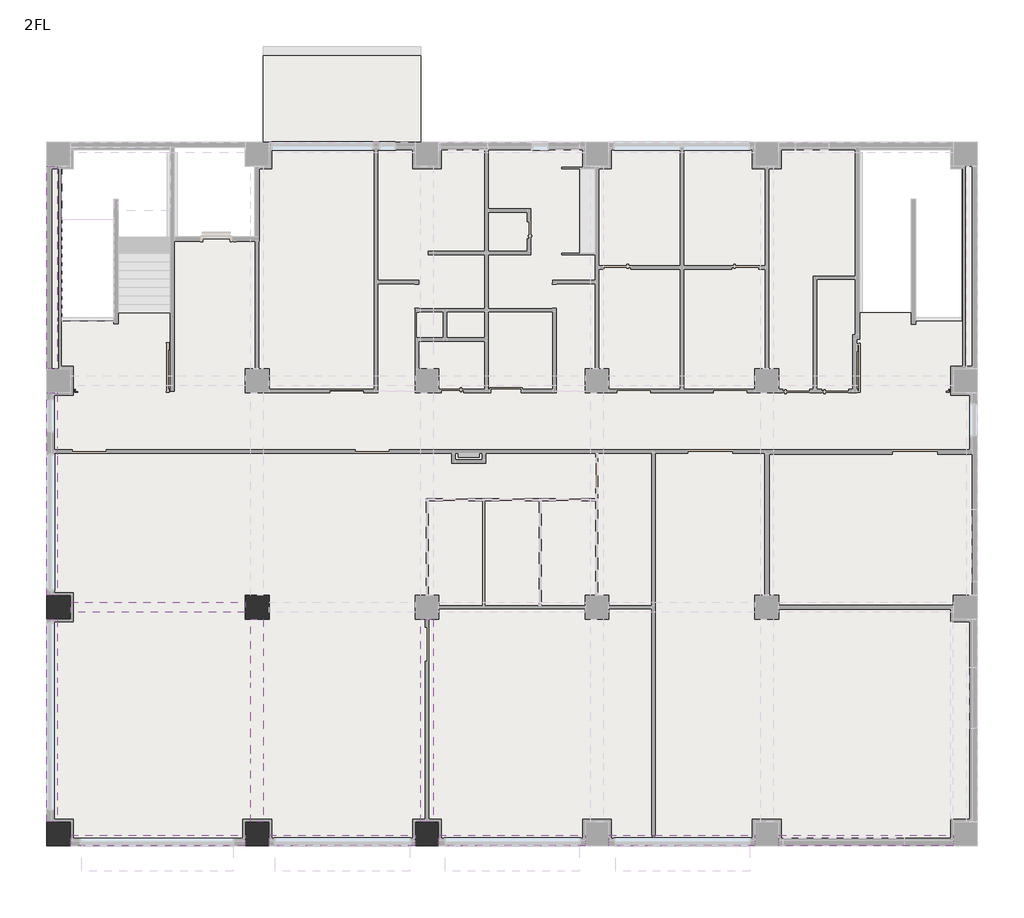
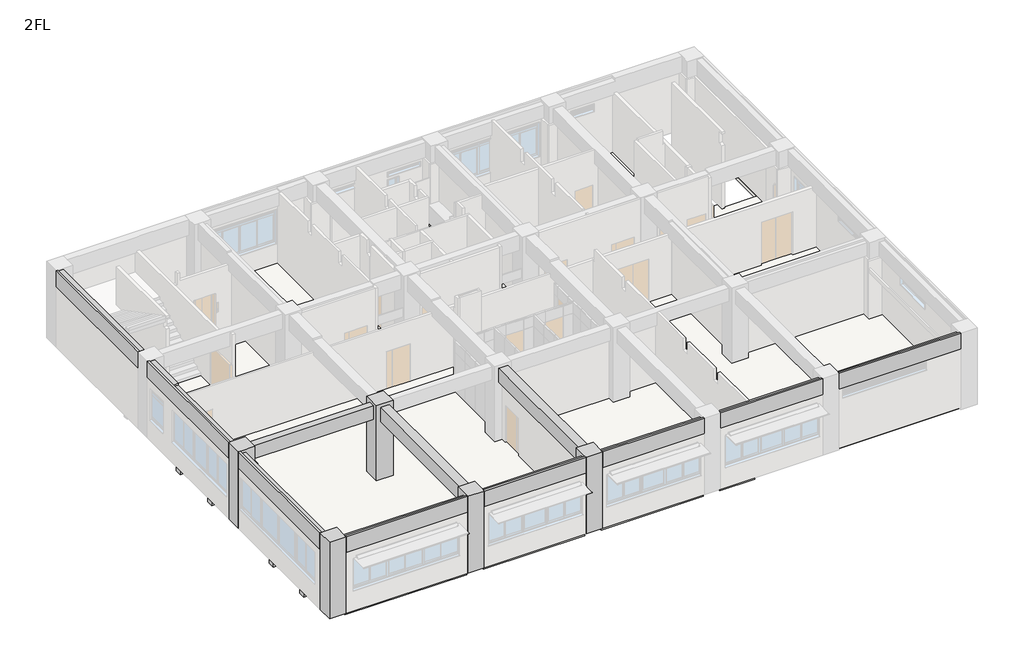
# One storey, part 5 of 7: 17 beams, 5 columns, 4 slabs.
"""IFC4 building model written with IfcOpenShell, lengths in millimetres."""

from ifc_helpers import new_model, si_unit, frame, origin, place, context, project, spatial, polyline, outline, extrude, faceted_brep, element, save

model = new_model("IFC4")

# Units and contexts
model_context = context("Model", 3, world=origin())
ifc_project = project(units=[si_unit("LENGTHUNIT", "METRE", prefix="MILLI")], contexts=[model_context])

# Site, building, storey
site = spatial("IfcSite", under=ifc_project)
building = spatial("IfcBuilding", under=site)
storey = spatial("IfcBuildingStorey", under=building, Name="2FL", Elevation=4100.0)

# Beams
placement = place(None, origin())
element("IfcBeam", 1, ObjectType="営_RC梁 : 2-RG1 350*850", at=placement, inside=storey, context=model_context, shape_type="Brep", body=[
    faceted_brep([(6580.0, -420.0, 8100.0), (6580.0, -420.0, 7250.0), (6580.0, -250.0, 7250.0), (6580.0, -50.0, 7250.0), (6580.0, -50.0, 7950.0), (6580.0, -325.0, 7950.0), (6580.0, -325.0, 8100.0), (420.0, -420.0, 8100.0), (420.0, -420.0, 7250.0), (420.0, -250.0, 7250.0), (420.0, -50.0, 7250.0), (420.0, -50.0, 7950.0), (420.0, -325.0, 8100.0), (420.0, -325.0, 7950.0)], [[[0, 1, 2, 3, 4, 5, 6]], [[1, 0, 7, 8]], [[3, 2, 1, 8, 9, 10]], [[3, 10, 11, 4]], [[7, 0, 6, 12]], [[8, 7, 12, 13, 11, 10, 9]], [[13, 5, 4, 11]], [[5, 13, 12, 6]]]),
])
element("IfcBeam", 2, ObjectType="営_RC梁 : 2-RG1 350*850", at=placement, inside=storey, context=model_context, shape_type="Brep", body=[
    faceted_brep([(12580.0, -420.0, 8100.0), (12580.0, -420.0, 7250.0), (12580.0, -250.0, 7250.0), (12580.0, -50.0, 7250.0), (12580.0, -50.0, 7950.0), (12580.0, -325.0, 7950.0), (12580.0, -325.0, 8100.0), (7420.0, -50.0, 7250.0), (7420.0, -250.0, 7250.0), (7420.0, -420.0, 7250.0), (7420.0, -420.0, 8100.0), (7420.0, -325.0, 8100.0), (7420.0, -325.0, 7950.0), (7420.0, -50.0, 7950.0)], [[[0, 1, 2, 3, 4, 5, 6]], [[7, 8, 9, 10, 11, 12, 13]], [[1, 0, 10, 9]], [[3, 2, 1, 9, 8, 7]], [[3, 7, 13, 4]], [[10, 0, 6, 11]], [[12, 5, 4, 13]], [[5, 12, 11, 6]]]),
])
element("IfcBeam", 3, ObjectType="営_RC梁 : 2-RG1 350*850", at=placement, inside=storey, context=model_context, shape_type="Brep", body=[
    faceted_brep([(18580.0, -420.0, 8100.0), (18580.0, -420.0, 7250.0), (18580.0, -250.0, 7250.0), (18580.0, -50.0, 7250.0), (18580.0, -50.0, 7950.0), (18580.0, -325.0, 7950.0), (18580.0, -325.0, 8100.0), (13420.0, -50.0, 7250.0), (13420.0, -250.0, 7250.0), (13420.0, -420.0, 7250.0), (13420.0, -420.0, 8100.0), (13420.0, -325.0, 8100.0), (13420.0, -325.0, 7950.0), (13420.0, -50.0, 7950.0)], [[[0, 1, 2, 3, 4, 5, 6]], [[7, 8, 9, 10, 11, 12, 13]], [[1, 0, 10, 9]], [[3, 2, 1, 9, 8, 7]], [[3, 7, 13, 4]], [[10, 0, 6, 11]], [[12, 5, 4, 13]], [[5, 12, 11, 6]]]),
])
element("IfcBeam", 4, ObjectType="営_RC梁 : 2-RG1 350*850", at=placement, inside=storey, context=model_context, shape_type="Brep", body=[
    faceted_brep([(24580.0, -420.0, 8100.0), (24580.0, -420.0, 7250.0), (24580.0, -250.0, 7250.0), (24580.0, -50.0, 7250.0), (24580.0, -50.0, 7950.0), (24580.0, -325.0, 7950.0), (24580.0, -325.0, 8100.0), (19420.0, -50.0, 7250.0), (19420.0, -250.0, 7250.0), (19420.0, -420.0, 7250.0), (19420.0, -420.0, 8100.0), (19420.0, -325.0, 8100.0), (19420.0, -325.0, 7950.0), (19420.0, -50.0, 7950.0), (20940.0, -50.0, 7250.0), (21060.0, -50.0, 7250.0), (20940.0, -50.0, 7950.0), (21060.0, -50.0, 7950.0)], [[[0, 1, 2, 3, 4, 5, 6]], [[7, 8, 9, 10, 11, 12, 13]], [[1, 0, 10, 9]], [[3, 2, 1, 9, 8, 7, 14, 15]], [[3, 15, 14, 7, 13, 16, 17, 4]], [[10, 0, 6, 11]], [[12, 5, 4, 17, 16, 13]], [[5, 12, 11, 6]]]),
])
element("IfcBeam", 5, ObjectType="営_RC梁 : 2-RG1 350*850", at=placement, inside=storey, context=model_context, shape_type="Brep", body=[
    faceted_brep([(31580.0, -420.0, 8100.0), (31580.0, -420.0, 7250.0), (31580.0, -250.0, 7250.0), (31580.0, -50.0, 7250.0), (31580.0, -50.0, 7950.0), (31580.0, -325.0, 7950.0), (31580.0, -325.0, 8100.0), (25420.0, -50.0, 7250.0), (25420.0, -250.0, 7250.0), (25420.0, -420.0, 7250.0), (25420.0, -420.0, 8100.0), (25420.0, -325.0, 8100.0), (25420.0, -325.0, 7950.0), (25420.0, -50.0, 7950.0)], [[[0, 1, 2, 3, 4, 5, 6]], [[7, 8, 9, 10, 11, 12, 13]], [[1, 0, 10, 9]], [[3, 2, 1, 9, 8, 7]], [[3, 7, 13, 4]], [[10, 0, 6, 11]], [[12, 5, 4, 13]], [[5, 12, 11, 6]]]),
])
element("IfcBeam", 6, ObjectType="営_RC梁 : 2-RG11 350*900", at=placement, inside=storey, context=model_context, shape_type="Brep", body=[
    faceted_brep([(-50.0, 420.0, 7200.0), (-50.0, 7580.0, 7200.0), (-50.0, 7580.0, 7950.0), (-50.0, 5505.0, 7950.0), (-50.0, 5155.0, 7950.0), (-50.0, 2835.0, 7950.0), (-50.0, 2485.0, 7950.0), (-50.0, 420.0, 7950.0), (-250.0, 420.0, 7200.0), (-420.0, 420.0, 7200.0), (-420.0, 7580.0, 7200.0), (-250.0, 7580.0, 7200.0), (-420.0, 420.0, 8100.0), (-420.0, 7580.0, 8100.0), (-335.0, 420.0, 8100.0), (-335.0, 7580.0, 8100.0), (-335.0, 420.0, 7950.0), (-335.0, 7580.0, 7950.0)], [[[0, 1, 2, 3, 4, 5, 6, 7]], [[0, 8, 9, 10, 11, 1]], [[9, 12, 13, 10]], [[13, 12, 14, 15]], [[9, 8, 0, 7, 16, 14, 12]], [[1, 11, 10, 13, 15, 17, 2]], [[17, 16, 7, 6, 5, 4, 3, 2]], [[16, 17, 15, 14]]]),
])
element("IfcBeam", 7, ObjectType="営_RC梁 : 2-RG11 350*900", at=placement, inside=storey, context=model_context, shape_type="Brep", body=[
    faceted_brep([(-50.0, 15580.0, 7200.0), (-250.0, 15580.0, 7200.0), (-420.0, 15580.0, 7200.0), (-420.0, 15580.0, 8100.0), (-325.0, 15580.0, 8100.0), (-325.0, 15580.0, 8040.0), (-250.0, 15580.0, 8040.0), (-50.0, 15580.0, 8040.0), (-420.0, 8420.0, 8100.0), (-420.0, 8420.0, 7200.0), (-250.0, 8420.0, 7200.0), (-50.0, 8420.0, 7200.0), (-50.0, 8420.0, 7950.0), (-335.0, 8420.0, 7950.0), (-335.0, 8420.0, 8100.0), (-50.0, 13440.0, 7200.0), (-50.0, 13560.0, 7200.0), (-50.0, 13675.0, 8040.0), (-50.0, 13500.0, 8040.0), (-50.0, 13500.0, 7950.0), (-50.0, 13325.0, 7950.0), (-50.0, 10925.0, 7950.0), (-50.0, 10575.0, 7950.0), (-335.0, 13500.0, 8100.0), (-325.0, 13500.0, 8100.0), (-335.0, 13500.0, 7950.0), (-250.0, 13500.0, 8040.0), (-325.0, 13500.0, 8040.0)], [[[0, 1, 2, 3, 4, 5, 6, 7]], [[8, 9, 10, 11, 12, 13, 14]], [[11, 15, 16, 0, 7, 17, 18, 19, 20, 21, 22, 12]], [[2, 1, 0, 16, 15, 11, 10, 9]], [[3, 2, 9, 8]], [[3, 8, 14, 23, 24, 4]], [[19, 25, 13, 12, 22, 21, 20]], [[25, 23, 14, 13]], [[23, 25, 19, 18, 26, 27, 24]], [[5, 27, 26, 18, 17, 7, 6]], [[27, 5, 4, 24]]]),
])
element("IfcBeam", 8, ObjectType="営_RC梁 : 2-RG11 350*900", at=placement, inside=storey, context=model_context, shape_type="Brep", body=[
    faceted_brep([(-50.0, 23580.0, 7200.0), (-250.0, 23580.0, 7200.0), (-420.0, 23580.0, 7200.0), (-420.0, 23580.0, 8100.0), (-325.0, 23580.0, 8100.0), (-325.0, 23580.0, 8040.0), (-250.0, 23580.0, 8040.0), (-50.0, 23580.0, 8040.0), (-420.0, 16420.0, 8100.0), (-420.0, 16420.0, 7200.0), (-250.0, 16420.0, 7200.0), (-50.0, 16420.0, 7200.0), (-50.0, 16420.0, 8040.0), (-250.0, 16420.0, 8040.0), (-325.0, 16420.0, 8040.0), (-325.0, 16420.0, 8100.0), (-50.0, 18225.0, 8040.0), (-50.0, 17975.0, 8040.0)], [[[0, 1, 2, 3, 4, 5, 6, 7]], [[8, 9, 10, 11, 12, 13, 14, 15]], [[11, 0, 7, 16, 17, 12]], [[2, 1, 0, 11, 10, 9]], [[3, 2, 9, 8]], [[3, 8, 15, 4]], [[5, 14, 13, 12, 17, 16, 7, 6]], [[14, 5, 4, 15]]]),
])
element("IfcBeam", 9, ObjectType="営_RC梁 : 2-RG2 350*850", at=placement, inside=storey, context=model_context, shape_type="SweptSolid", body=[
    extrude(outline(polyline([(6580.0, 8175.0), (6580.0, 7825.0), (420.0, 7825.0), (420.0, 8175.0), (6580.0, 8175.0)])), frame((0.0, 0.0, 7250.0), z_axis=(0.0, 0.0, 1.0), x_axis=(1.0, 0.0, 0.0)), (0.0, 0.0, 1.0), 700.0),
])
element("IfcBeam", 10, ObjectType="営_RC梁 : 2-4G12 450*900", at=placement, inside=storey, context=model_context, shape_type="Brep", body=[
    faceted_brep([(7225.0, 420.0, 7200.0), (7225.0, 7580.0, 7200.0), (7225.0, 7580.0, 7950.0), (7225.0, 5505.0, 7950.0), (7225.0, 5155.0, 7950.0), (7225.0, 2835.0, 7950.0), (7225.0, 2485.0, 7950.0), (7225.0, 420.0, 7950.0), (6775.0, 420.0, 7200.0), (6775.0, 7580.0, 7200.0), (6775.0, 420.0, 7950.0), (6775.0, 2485.0, 7950.0), (6775.0, 2835.0, 7950.0), (6775.0, 5155.0, 7950.0), (6775.0, 5505.0, 7950.0), (6775.0, 7580.0, 7950.0)], [[[0, 1, 2, 3, 4, 5, 6, 7]], [[0, 8, 9, 1]], [[9, 8, 10, 11, 12, 13, 14, 15]], [[8, 0, 7, 10]], [[1, 9, 15, 2]], [[7, 6, 5, 4, 3, 2, 15, 14, 13, 12, 11, 10]]]),
])
element("IfcBeam", 11, ObjectType="営_RC梁 : 2-4G12 450*900", at=placement, inside=storey, context=model_context, shape_type="Brep", body=[
    faceted_brep([(13225.0, 420.0, 7200.0), (13225.0, 7580.0, 7200.0), (13225.0, 7580.0, 7950.0), (13225.0, 5505.0, 7950.0), (13225.0, 5155.0, 7950.0), (13225.0, 2835.0, 7950.0), (13225.0, 2485.0, 7950.0), (13225.0, 420.0, 7950.0), (13060.0, 420.0, 7200.0), (12940.0, 420.0, 7200.0), (12775.0, 420.0, 7200.0), (12775.0, 7580.0, 7200.0), (12940.0, 7580.0, 7200.0), (13060.0, 7580.0, 7200.0), (12775.0, 420.0, 7950.0), (12775.0, 2485.0, 7950.0), (12775.0, 2835.0, 7950.0), (12775.0, 5155.0, 7950.0), (12775.0, 5505.0, 7950.0), (12775.0, 7580.0, 7950.0)], [[[0, 1, 2, 3, 4, 5, 6, 7]], [[0, 8, 9, 10, 11, 12, 13, 1]], [[11, 10, 14, 15, 16, 17, 18, 19]], [[10, 9, 8, 0, 7, 14]], [[1, 13, 12, 11, 19, 2]], [[7, 6, 5, 4, 3, 2, 19, 18, 17, 16, 15, 14]]]),
])
element("IfcBeam", 12, ObjectType="営_RC梁 : B1 350*750", at=placement, inside=storey, context=model_context, shape_type="SweptSolid", body=[
    extrude(outline(polyline([(7225.0, 5155.0), (7225.0, 5505.0), (12775.0, 5505.0), (12775.0, 5155.0), (7225.0, 5155.0)])), frame((0.0, 0.0, 3250.0), z_axis=(0.0, 0.0, 1.0), x_axis=(1.0, 0.0, 0.0)), (0.0, 0.0, 1.0), 600.0),
])
element("IfcBeam", 13, ObjectType="営_RC梁 : B1 350*750", at=placement, inside=storey, context=model_context, shape_type="SweptSolid", body=[
    extrude(outline(polyline([(7225.0, 2485.0), (7225.0, 2835.0), (12775.0, 2835.0), (12775.0, 2485.0), (7225.0, 2485.0)])), frame((0.0, 0.0, 3250.0), z_axis=(0.0, 0.0, 1.0), x_axis=(1.0, 0.0, 0.0)), (0.0, 0.0, 1.0), 600.0),
])
element("IfcBeam", 14, ObjectType="営_RC梁 : B1 350*750", at=placement, inside=storey, context=model_context, shape_type="SweptSolid", body=[
    extrude(outline(polyline([(-50.0, 5155.0), (-50.0, 5505.0), (6775.0, 5505.0), (6775.0, 5155.0), (-50.0, 5155.0)])), frame((0.0, 0.0, 3250.0), z_axis=(0.0, 0.0, 1.0), x_axis=(1.0, 0.0, 0.0)), (0.0, 0.0, 1.0), 600.0),
])
element("IfcBeam", 15, ObjectType="営_RC梁 : B1 350*750", at=placement, inside=storey, context=model_context, shape_type="SweptSolid", body=[
    extrude(outline(polyline([(-50.0, 2485.0), (-50.0, 2835.0), (6775.0, 2835.0), (6775.0, 2485.0), (-50.0, 2485.0)])), frame((0.0, 0.0, 3250.0), z_axis=(0.0, 0.0, 1.0), x_axis=(1.0, 0.0, 0.0)), (0.0, 0.0, 1.0), 600.0),
])
element("IfcBeam", 16, ObjectType="営_RC梁 : B1 350*750", at=placement, inside=storey, context=model_context, shape_type="SweptSolid", body=[
    extrude(outline(polyline([(-50.0, 10575.0), (-50.0, 10925.0), (6775.0, 10925.0), (6775.0, 10575.0), (-50.0, 10575.0)])), frame((0.0, 0.0, 3250.0), z_axis=(0.0, 0.0, 1.0), x_axis=(1.0, 0.0, 0.0)), (0.0, 0.0, 1.0), 600.0),
])
element("IfcBeam", 17, ObjectType="営_RC梁 : B1 350*750", at=placement, inside=storey, context=model_context, shape_type="SweptSolid", body=[
    extrude(outline(polyline([(13675.0, 3250.0), (13325.0, 3250.0), (13325.0, 3850.0), (13500.0, 3850.0), (13500.0, 3940.0), (13675.0, 3940.0), (13675.0, 3250.0)])), frame((-50.0, 0.0, 0.0), z_axis=(1.0, 0.0, 0.0), x_axis=(0.0, 1.0, 0.0)), (0.0, 0.0, 1.0), 6825.0),
])

# Columns
element("IfcColumn", 18, ObjectType="営_RC柱_角 : 800*800", at=placement, inside=storey, context=model_context, shape_type="Brep", body=[
    faceted_brep([(7420.0, 420.0, 4000.0), (7420.0, -250.0, 4000.0), (7420.0, -420.0, 4000.0), (6580.0, -420.0, 4000.0), (6580.0, -250.0, 4000.0), (6580.0, 420.0, 4000.0), (7420.0, 420.0, 8100.0), (7420.0, -325.0, 8100.0), (7420.0, -420.0, 8100.0), (7420.0, -420.0, 7250.0), (7420.0, 420.0, 4080.0), (7420.0, 420.0, 4090.0), (7420.0, 420.0, 7950.0), (6580.0, -420.0, 8100.0), (6580.0, -420.0, 7250.0), (6580.0, -325.0, 8100.0), (6580.0, 420.0, 8100.0), (6580.0, 420.0, 7950.0), (6580.0, 420.0, 4090.0), (6580.0, 420.0, 4080.0)], [[[0, 1, 2, 3, 4, 5]], [[6, 7, 8, 9, 2, 1, 0, 10, 11, 12]], [[8, 13, 14, 3, 2, 9]], [[13, 15, 16, 17, 18, 19, 5, 4, 3, 14]], [[16, 6, 12, 11, 10, 0, 5, 19, 18, 17]], [[6, 16, 15, 13, 8, 7]]]),
])
element("IfcColumn", 19, ObjectType="営_RC柱_角 : 800*800", at=placement, inside=storey, context=model_context, shape_type="Brep", body=[
    faceted_brep([(13420.0, 420.0, 4000.0), (13420.0, -250.0, 4000.0), (13420.0, -420.0, 4000.0), (12580.0, -420.0, 4000.0), (12580.0, -250.0, 4000.0), (12580.0, 420.0, 4000.0), (13420.0, 420.0, 8100.0), (13420.0, -325.0, 8100.0), (13420.0, -420.0, 8100.0), (13420.0, -420.0, 7250.0), (13420.0, 420.0, 4080.0), (13420.0, 420.0, 4090.0), (13420.0, 420.0, 7950.0), (12580.0, -420.0, 8100.0), (12580.0, -420.0, 7250.0), (12580.0, -325.0, 8100.0), (12580.0, 420.0, 8100.0), (12580.0, 420.0, 7950.0), (12580.0, 420.0, 4090.0), (12580.0, 420.0, 4080.0)], [[[0, 1, 2, 3, 4, 5]], [[6, 7, 8, 9, 2, 1, 0, 10, 11, 12]], [[8, 13, 14, 3, 2, 9]], [[13, 15, 16, 17, 18, 19, 5, 4, 3, 14]], [[16, 6, 12, 11, 10, 0, 5, 19, 18, 17]], [[6, 16, 15, 13, 8, 7]]]),
])
element("IfcColumn", 20, ObjectType="営_RC柱_角 : 800*800", at=placement, inside=storey, context=model_context, shape_type="Brep", body=[
    faceted_brep([(420.0, 420.0, 4000.0), (420.0, -250.0, 4000.0), (420.0, -420.0, 4000.0), (-420.0, -420.0, 4000.0), (-420.0, 420.0, 4000.0), (-250.0, 420.0, 4000.0), (420.0, 420.0, 8100.0), (420.0, -325.0, 8100.0), (420.0, -420.0, 8100.0), (420.0, -420.0, 7250.0), (420.0, 420.0, 4080.0), (420.0, 420.0, 4090.0), (420.0, 420.0, 7950.0), (-420.0, -420.0, 8100.0), (-420.0, 420.0, 8100.0), (-420.0, 420.0, 7200.0), (-335.0, 420.0, 8100.0)], [[[0, 1, 2, 3, 4, 5]], [[6, 7, 8, 9, 2, 1, 0, 10, 11, 12]], [[8, 13, 3, 2, 9]], [[13, 14, 15, 4, 3]], [[14, 16, 6, 12, 11, 10, 0, 5, 4, 15]], [[6, 16, 14, 13, 8, 7]]]),
])
element("IfcColumn", 21, ObjectType="営_RC柱_角 : 800*800", at=placement, inside=storey, context=model_context, shape_type="Brep", body=[
    faceted_brep([(7420.0, 8420.0, 4000.0), (7420.0, 7580.0, 4000.0), (6580.0, 7580.0, 4000.0), (6580.0, 8420.0, 4000.0), (7420.0, 8420.0, 8100.0), (7420.0, 7580.0, 8100.0), (7420.0, 7580.0, 7950.0), (7420.0, 7580.0, 4090.0), (7420.0, 7580.0, 4080.0), (7420.0, 8420.0, 4080.0), (7420.0, 8420.0, 4090.0), (7420.0, 8420.0, 7950.0), (6580.0, 7580.0, 8100.0), (6580.0, 7580.0, 7950.0), (6580.0, 7580.0, 4090.0), (6580.0, 7580.0, 4080.0), (6580.0, 8420.0, 8100.0), (6580.0, 8420.0, 7950.0), (6580.0, 8420.0, 4090.0), (6580.0, 8420.0, 4080.0)], [[[0, 1, 2, 3]], [[4, 5, 6, 7, 8, 1, 0, 9, 10, 11]], [[5, 12, 13, 14, 15, 2, 1, 8, 7, 6]], [[12, 16, 17, 18, 19, 3, 2, 15, 14, 13]], [[16, 4, 11, 10, 9, 0, 3, 19, 18, 17]], [[4, 16, 12, 5]]]),
])
element("IfcColumn", 22, ObjectType="営_RC柱_角 : 800*800", at=placement, inside=storey, context=model_context, shape_type="Brep", body=[
    faceted_brep([(420.0, 8420.0, 4000.0), (420.0, 7580.0, 4000.0), (-250.0, 7580.0, 4000.0), (-420.0, 7580.0, 4000.0), (-420.0, 8420.0, 4000.0), (-250.0, 8420.0, 4000.0), (420.0, 8420.0, 8100.0), (420.0, 7580.0, 8100.0), (420.0, 7580.0, 7950.0), (420.0, 7580.0, 4090.0), (420.0, 7580.0, 4080.0), (420.0, 8420.0, 4080.0), (420.0, 8420.0, 4090.0), (420.0, 8420.0, 7950.0), (-335.0, 7580.0, 8100.0), (-420.0, 7580.0, 8100.0), (-420.0, 7580.0, 7200.0), (-420.0, 8420.0, 8100.0), (-420.0, 8420.0, 7200.0), (-335.0, 8420.0, 8100.0)], [[[0, 1, 2, 3, 4, 5]], [[6, 7, 8, 9, 10, 1, 0, 11, 12, 13]], [[7, 14, 15, 16, 3, 2, 1, 10, 9, 8]], [[15, 17, 18, 4, 3, 16]], [[17, 19, 6, 13, 12, 11, 0, 5, 4, 18]], [[6, 19, 17, 15, 14, 7]]]),
])

# Slabs
element("IfcSlab", 23, ObjectType="(内床)仕上げ", at=placement, inside=storey, context=model_context, shape_type="SweptSolid", body=[
    extrude(outline(polyline([(-250.0, 13500.0), (20940.0, 13500.0), (20940.0, -250.0), (19420.0, -250.0), (19420.0, 420.0), (18580.0, 420.0), (18580.0, -250.0), (13420.0, -250.0), (13420.0, 420.0), (12580.0, 420.0), (12580.0, -250.0), (7420.0, -250.0), (7420.0, 420.0), (6580.0, 420.0), (6580.0, -250.0), (420.0, -250.0), (420.0, 420.0), (-250.0, 420.0), (-250.0, 7580.0), (420.0, 7580.0), (420.0, 8420.0), (-250.0, 8420.0), (-250.0, 13500.0)]), holes=[polyline([(7420.0, 7580.0), (7420.0, 8420.0), (6580.0, 8420.0), (6580.0, 7580.0), (7420.0, 7580.0)]), polyline([(13420.0, 7580.0), (13420.0, 8420.0), (12580.0, 8420.0), (12580.0, 7580.0), (13420.0, 7580.0)]), polyline([(19420.0, 7580.0), (19420.0, 8420.0), (18580.0, 8420.0), (18580.0, 7580.0), (19420.0, 7580.0)])]), frame((0.0, 0.0, 4080.0), z_axis=(0.0, 0.0, 1.0), x_axis=(1.0, 0.0, 0.0)), (0.0, 0.0, 1.0), 10.0),
    extrude(outline(polyline([(11200.0, 24250.0), (11200.0, 15640.0), (7420.0, 15640.0), (7420.0, 16420.0), (7000.0, 16420.0), (7000.0, 23580.0), (7420.0, 23580.0), (7420.0, 24250.0), (11200.0, 24250.0)])), frame((0.0, 0.0, 4080.0), z_axis=(0.0, 0.0, 1.0), x_axis=(1.0, 0.0, 0.0)), (0.0, 0.0, 1.0), 10.0),
])
element("IfcSlab", 24, ObjectType="(RC)150", at=placement, inside=storey, context=model_context, shape_type="Brep", body=[
    faceted_brep([(11200.0, 15640.0, 3850.0), (7420.0, 15640.0, 3850.0), (7420.0, 15825.0, 3850.0), (7420.0, 16175.0, 3850.0), (7420.0, 16420.0, 3850.0), (7225.0, 16420.0, 3850.0), (7000.0, 16420.0, 3850.0), (7000.0, 23580.0, 3850.0), (7225.0, 23580.0, 3850.0), (7420.0, 23580.0, 3850.0), (7420.0, 24050.0, 3850.0), (7420.0, 24250.0, 3850.0), (11200.0, 24250.0, 3850.0), (11200.0, 24050.0, 3850.0), (11200.0, 21515.0, 3850.0), (11200.0, 21165.0, 3850.0), (11200.0, 18845.0, 3850.0), (11200.0, 18495.0, 3850.0), (11200.0, 16175.0, 3850.0), (11200.0, 15825.0, 3850.0), (7420.0, 15640.0, 4000.0), (11200.0, 15640.0, 4000.0), (11200.0, 24250.0, 4000.0), (7420.0, 24250.0, 4000.0), (7420.0, 23580.0, 4000.0), (7000.0, 23580.0, 4000.0), (7000.0, 21000.0, 4000.0), (7000.0, 16420.0, 4000.0), (7420.0, 16420.0, 4000.0), (11200.0, 15640.0, 3940.0), (11200.0, 24250.0, 3940.0), (7420.0, 15640.0, 3940.0), (7000.0, 16420.0, 3940.0)], [[[0, 1, 2, 3, 4, 5, 6, 7, 8, 9, 10, 11, 12, 13, 14, 15, 16, 17, 18, 19]], [[20, 21, 22, 23, 24, 25, 26, 27, 28]], [[21, 29, 0, 19, 18, 17, 16, 15, 14, 13, 12, 30, 22]], [[0, 29, 21, 20, 31, 1]], [[6, 32, 27, 26, 25, 7]], [[28, 4, 3, 2, 1, 31, 20]], [[4, 28, 27, 32, 6, 5]], [[9, 24, 23, 11, 10]], [[24, 9, 8, 7, 25]], [[12, 11, 23, 22, 30]]]),
    faceted_brep([(21200.0, 13500.0, 3850.0), (21200.0, 13325.0, 3850.0), (21200.0, 10925.0, 3850.0), (21200.0, 10575.0, 3850.0), (21200.0, 8175.0, 3850.0), (21200.0, 7825.0, 3850.0), (21200.0, 5505.0, 3850.0), (21200.0, 5155.0, 3850.0), (21200.0, 2835.0, 3850.0), (21200.0, 2485.0, 3850.0), (21200.0, -50.0, 3850.0), (21200.0, -325.0, 3850.0), (19420.0, -325.0, 3850.0), (19420.0, -50.0, 3850.0), (19420.0, 420.0, 3850.0), (19225.0, 420.0, 3850.0), (18775.0, 420.0, 3850.0), (18580.0, 420.0, 3850.0), (18580.0, -50.0, 3850.0), (18580.0, -325.0, 3850.0), (13420.0, -325.0, 3850.0), (13420.0, -50.0, 3850.0), (13420.0, 420.0, 3850.0), (13225.0, 420.0, 3850.0), (12775.0, 420.0, 3850.0), (12580.0, 420.0, 3850.0), (12580.0, -50.0, 3850.0), (12580.0, -325.0, 3850.0), (7420.0, -325.0, 3850.0), (7420.0, -50.0, 3850.0), (7420.0, 420.0, 3850.0), (7225.0, 420.0, 3850.0), (6775.0, 420.0, 3850.0), (6580.0, 420.0, 3850.0), (6580.0, -50.0, 3850.0), (6580.0, -325.0, 3850.0), (420.0, -325.0, 3850.0), (420.0, -50.0, 3850.0), (420.0, 420.0, 3850.0), (-50.0, 420.0, 3850.0), (-250.0, 420.0, 3850.0), (-250.0, 7580.0, 3850.0), (-50.0, 7580.0, 3850.0), (420.0, 7580.0, 3850.0), (420.0, 7825.0, 3850.0), (420.0, 8175.0, 3850.0), (420.0, 8420.0, 3850.0), (-50.0, 8420.0, 3850.0), (-250.0, 8420.0, 3850.0), (-250.0, 13500.0, 3850.0), (-50.0, 13500.0, 3850.0), (6775.0, 13500.0, 3850.0), (7225.0, 13500.0, 3850.0), (12775.0, 13500.0, 3850.0), (13225.0, 13500.0, 3850.0), (18775.0, 13500.0, 3850.0), (19225.0, 13500.0, 3850.0), (7420.0, 7580.0, 3850.0), (7420.0, 7825.0, 3850.0), (7420.0, 8175.0, 3850.0), (7420.0, 8420.0, 3850.0), (7225.0, 8420.0, 3850.0), (6775.0, 8420.0, 3850.0), (6580.0, 8420.0, 3850.0), (6580.0, 8175.0, 3850.0), (6580.0, 7825.0, 3850.0), (6580.0, 7580.0, 3850.0), (6775.0, 7580.0, 3850.0), (7225.0, 7580.0, 3850.0), (13420.0, 7580.0, 3850.0), (13420.0, 7825.0, 3850.0), (13420.0, 8175.0, 3850.0), (13420.0, 8420.0, 3850.0), (13225.0, 8420.0, 3850.0), (12775.0, 8420.0, 3850.0), (12580.0, 8420.0, 3850.0), (12580.0, 8175.0, 3850.0), (12580.0, 7825.0, 3850.0), (12580.0, 7580.0, 3850.0), (12775.0, 7580.0, 3850.0), (13225.0, 7580.0, 3850.0), (19420.0, 7580.0, 3850.0), (19420.0, 7825.0, 3850.0), (19420.0, 8175.0, 3850.0), (19420.0, 8420.0, 3850.0), (19225.0, 8420.0, 3850.0), (18775.0, 8420.0, 3850.0), (18580.0, 8420.0, 3850.0), (18580.0, 8175.0, 3850.0), (18580.0, 7825.0, 3850.0), (18580.0, 7580.0, 3850.0), (18775.0, 7580.0, 3850.0), (19225.0, 7580.0, 3850.0), (21200.0, -325.0, 4000.0), (21200.0, -250.0, 4000.0), (21200.0, 13500.0, 4000.0), (20950.0, 13500.0, 4000.0), (-250.0, 13500.0, 4000.0), (-250.0, 8420.0, 4000.0), (420.0, 8420.0, 4000.0), (420.0, 7580.0, 4000.0), (-250.0, 7580.0, 4000.0), (-250.0, 420.0, 4000.0), (420.0, 420.0, 4000.0), (420.0, -325.0, 4000.0), (6580.0, -325.0, 4000.0), (6580.0, 420.0, 4000.0), (7420.0, 420.0, 4000.0), (7420.0, -325.0, 4000.0), (12580.0, -325.0, 4000.0), (12580.0, 420.0, 4000.0), (13420.0, 420.0, 4000.0), (13420.0, -325.0, 4000.0), (18580.0, -325.0, 4000.0), (18580.0, 420.0, 4000.0), (19420.0, 420.0, 4000.0), (19420.0, -325.0, 4000.0), (7420.0, 8420.0, 4000.0), (7420.0, 7580.0, 4000.0), (6580.0, 7580.0, 4000.0), (6580.0, 8420.0, 4000.0), (13420.0, 8420.0, 4000.0), (13420.0, 7580.0, 4000.0), (12580.0, 7580.0, 4000.0), (12580.0, 8420.0, 4000.0), (19420.0, 8420.0, 4000.0), (19420.0, 7580.0, 4000.0), (18580.0, 7580.0, 4000.0), (18580.0, 8420.0, 4000.0), (21200.0, 13500.0, 3940.0), (-250.0, 13500.0, 3940.0)], [[[0, 1, 2, 3, 4, 5, 6, 7, 8, 9, 10, 11, 12, 13, 14, 15, 16, 17, 18, 19, 20, 21, 22, 23, 24, 25, 26, 27, 28, 29, 30, 31, 32, 33, 34, 35, 36, 37, 38, 39, 40, 41, 42, 43, 44, 45, 46, 47, 48, 49, 50, 51, 52, 53, 54, 55, 56], [57, 58, 59, 60, 61, 62, 63, 64, 65, 66, 67, 68], [69, 70, 71, 72, 73, 74, 75, 76, 77, 78, 79, 80], [81, 82, 83, 84, 85, 86, 87, 88, 89, 90, 91, 92]], [[93, 94, 95, 96, 97, 98, 99, 100, 101, 102, 103, 104, 105, 106, 107, 108, 109, 110, 111, 112, 113, 114, 115, 116], [117, 118, 119, 120], [121, 122, 123, 124], [125, 126, 127, 128]], [[35, 105, 104, 36]], [[108, 28, 27, 109]], [[112, 20, 19, 113]], [[11, 93, 116, 12]], [[95, 129, 0, 56, 55, 54, 53, 52, 51, 50, 49, 130, 97, 96]], [[11, 10, 9, 8, 7, 6, 5, 4, 3, 2, 1, 0, 129, 95, 94, 93]], [[107, 30, 29, 28, 108]], [[33, 106, 105, 35, 34]], [[106, 33, 32, 31, 30, 107]], [[111, 22, 21, 20, 112]], [[25, 110, 109, 27, 26]], [[110, 25, 24, 23, 22, 111]], [[115, 14, 13, 12, 116]], [[17, 114, 113, 19, 18]], [[114, 17, 16, 15, 14, 115]], [[103, 38, 37, 36, 104]], [[38, 103, 102, 40, 39]], [[57, 118, 117, 60, 59, 58]], [[118, 57, 68, 67, 66, 119]], [[119, 66, 65, 64, 63, 120]], [[120, 63, 62, 61, 60, 117]], [[69, 122, 121, 72, 71, 70]], [[122, 69, 80, 79, 78, 123]], [[123, 78, 77, 76, 75, 124]], [[124, 75, 74, 73, 72, 121]], [[81, 126, 125, 84, 83, 82]], [[126, 81, 92, 91, 90, 127]], [[127, 90, 89, 88, 87, 128]], [[128, 87, 86, 85, 84, 125]], [[43, 100, 99, 46, 45, 44]], [[100, 43, 42, 41, 101]], [[46, 99, 98, 48, 47]], [[49, 48, 98, 97, 130]], [[40, 102, 101, 41]]]),
])
element("IfcSlab", 25, ObjectType="(RC)150", at=placement, inside=storey, context=model_context, shape_type="Brep", body=[
    faceted_brep([(4000.0, 21000.0, 3940.0), (4175.0, 21000.0, 3940.0), (4306.3, 21000.0, 3940.0), (6775.0, 21000.0, 3940.0), (7000.0, 21000.0, 3940.0), (7000.0, 16420.0, 3940.0), (6775.0, 16420.0, 3940.0), (6580.0, 16420.0, 3940.0), (6580.0, 16175.0, 3940.0), (6580.0, 15825.0, 3940.0), (6580.0, 15580.0, 3940.0), (6775.0, 15580.0, 3940.0), (7225.0, 15580.0, 3940.0), (7420.0, 15580.0, 3940.0), (7420.0, 15640.0, 3940.0), (11200.0, 15640.0, 3940.0), (11200.0, 15825.0, 3940.0), (11200.0, 16175.0, 3940.0), (11200.0, 18495.0, 3940.0), (11200.0, 18845.0, 3940.0), (11200.0, 21165.0, 3940.0), (11200.0, 21515.0, 3940.0), (11200.0, 24050.0, 3940.0), (11200.0, 24250.0, 3940.0), (12580.0, 24250.0, 3940.0), (12580.0, 24050.0, 3940.0), (12580.0, 23580.0, 3940.0), (12775.0, 23580.0, 3940.0), (13225.0, 23580.0, 3940.0), (13420.0, 23580.0, 3940.0), (13420.0, 24050.0, 3940.0), (13420.0, 24250.0, 3940.0), (18580.0, 24250.0, 3940.0), (18580.0, 24050.0, 3940.0), (18580.0, 23580.0, 3940.0), (18775.0, 23580.0, 3940.0), (19225.0, 23580.0, 3940.0), (19420.0, 23580.0, 3940.0), (19420.0, 24050.0, 3940.0), (19420.0, 24250.0, 3940.0), (24580.0, 24250.0, 3940.0), (24580.0, 24050.0, 3940.0), (24580.0, 23580.0, 3940.0), (24775.0, 23580.0, 3940.0), (25225.0, 23580.0, 3940.0), (25420.0, 23580.0, 3940.0), (25420.0, 24050.0, 3940.0), (25420.0, 24250.0, 3940.0), (28200.0, 24250.0, 3940.0), (28200.0, 24050.0, 3940.0), (28200.0, 18400.0, 3940.0), (30105.0, 18400.0, 3940.0), (30105.0, 18005.0, 3940.0), (30255.0, 18005.0, 3940.0), (30255.0, 18100.0, 3940.0), (31900.0, 18100.0, 3940.0), (31900.0, 23580.0, 3940.0), (32050.0, 23580.0, 3940.0), (32250.0, 23580.0, 3940.0), (32250.0, 16420.0, 3940.0), (32050.0, 16420.0, 3940.0), (31580.0, 16420.0, 3940.0), (31580.0, 16175.0, 3940.0), (31580.0, 15825.0, 3940.0), (31580.0, 15580.0, 3940.0), (32050.0, 15580.0, 3940.0), (32250.0, 15580.0, 3940.0), (32250.0, 8420.0, 3940.0), (32050.0, 8420.0, 3940.0), (31580.0, 8420.0, 3940.0), (31580.0, 8175.0, 3940.0), (31580.0, 7825.0, 3940.0), (31580.0, 7580.0, 3940.0), (32050.0, 7580.0, 3940.0), (32250.0, 7580.0, 3940.0), (32250.0, 420.0, 3940.0), (32050.0, 420.0, 3940.0), (31580.0, 420.0, 3940.0), (31580.0, -50.0, 3940.0), (31580.0, -250.0, 3940.0), (25420.0, -250.0, 3940.0), (25420.0, -50.0, 3940.0), (25420.0, 420.0, 3940.0), (25225.0, 420.0, 3940.0), (24775.0, 420.0, 3940.0), (24580.0, 420.0, 3940.0), (24580.0, -50.0, 3940.0), (24580.0, -250.0, 3940.0), (21200.0, -250.0, 3940.0), (21200.0, -50.0, 3940.0), (21200.0, 2485.0, 3940.0), (21200.0, 2835.0, 3940.0), (21200.0, 5155.0, 3940.0), (21200.0, 5505.0, 3940.0), (21200.0, 7825.0, 3940.0), (21200.0, 8175.0, 3940.0), (21200.0, 10575.0, 3940.0), (21200.0, 10925.0, 3940.0), (21200.0, 13325.0, 3940.0), (21200.0, 13500.0, 3940.0), (19225.0, 13500.0, 3940.0), (18775.0, 13500.0, 3940.0), (13225.0, 13500.0, 3940.0), (12775.0, 13500.0, 3940.0), (7225.0, 13500.0, 3940.0), (6775.0, 13500.0, 3940.0), (-50.0, 13500.0, 3940.0), (-250.0, 13500.0, 3940.0), (-250.0, 15580.0, 3940.0), (-50.0, 15580.0, 3940.0), (420.0, 15580.0, 3940.0), (420.0, 15825.0, 3940.0), (420.0, 16175.0, 3940.0), (420.0, 16420.0, 3940.0), (-50.0, 16420.0, 3940.0), (-250.0, 16420.0, 3940.0), (-250.0, 23580.0, 3940.0), (-50.0, 23580.0, 3940.0), (100.0, 23580.0, 3940.0), (100.0, 18225.0, 3940.0), (100.0, 18100.0, 3940.0), (1945.0, 18100.0, 3940.0), (1945.0, 18005.0, 3940.0), (2095.0, 18005.0, 3940.0), (2095.0, 18225.0, 3940.0), (2095.0, 18400.0, 3940.0), (3825.0, 18400.0, 3940.0), (4000.0, 18400.0, 3940.0), (25420.0, 7580.0, 3940.0), (25420.0, 7825.0, 3940.0), (25420.0, 8175.0, 3940.0), (25420.0, 8420.0, 3940.0), (25225.0, 8420.0, 3940.0), (24775.0, 8420.0, 3940.0), (24580.0, 8420.0, 3940.0), (24580.0, 8175.0, 3940.0), (24580.0, 7825.0, 3940.0), (24580.0, 7580.0, 3940.0), (24775.0, 7580.0, 3940.0), (25225.0, 7580.0, 3940.0), (13420.0, 15580.0, 3940.0), (13420.0, 15825.0, 3940.0), (13420.0, 16175.0, 3940.0), (13420.0, 16420.0, 3940.0), (13225.0, 16420.0, 3940.0), (12775.0, 16420.0, 3940.0), (12580.0, 16420.0, 3940.0), (12580.0, 16175.0, 3940.0), (12580.0, 15825.0, 3940.0), (12580.0, 15580.0, 3940.0), (12775.0, 15580.0, 3940.0), (13225.0, 15580.0, 3940.0), (19420.0, 15580.0, 3940.0), (19420.0, 15825.0, 3940.0), (19420.0, 16175.0, 3940.0), (19420.0, 16420.0, 3940.0), (19225.0, 16420.0, 3940.0), (18775.0, 16420.0, 3940.0), (18580.0, 16420.0, 3940.0), (18580.0, 16175.0, 3940.0), (18580.0, 15825.0, 3940.0), (18580.0, 15580.0, 3940.0), (18775.0, 15580.0, 3940.0), (19225.0, 15580.0, 3940.0), (25420.0, 15580.0, 3940.0), (25420.0, 15825.0, 3940.0), (25420.0, 16175.0, 3940.0), (25420.0, 16420.0, 3940.0), (25225.0, 16420.0, 3940.0), (24775.0, 16420.0, 3940.0), (24580.0, 16420.0, 3940.0), (24580.0, 16175.0, 3940.0), (24580.0, 15825.0, 3940.0), (24580.0, 15580.0, 3940.0), (24775.0, 15580.0, 3940.0), (25225.0, 15580.0, 3940.0), (-325.0, 13500.0, 4090.0), (20950.0, 13500.0, 4090.0), (20950.0, -250.0, 4090.0), (24580.0, -250.0, 4090.0), (24580.0, 420.0, 4090.0), (25420.0, 420.0, 4090.0), (25420.0, -250.0, 4090.0), (31580.0, -250.0, 4090.0), (31580.0, 420.0, 4090.0), (32250.0, 420.0, 4090.0), (32325.0, 420.0, 4090.0), (32325.0, 7580.0, 4090.0), (32250.0, 7580.0, 4090.0), (31580.0, 7580.0, 4090.0), (31580.0, 8420.0, 4090.0), (32250.0, 8420.0, 4090.0), (32325.0, 8420.0, 4090.0), (32325.0, 15580.0, 4090.0), (32250.0, 15580.0, 4090.0), (31580.0, 15580.0, 4090.0), (31580.0, 16420.0, 4090.0), (32250.0, 16420.0, 4090.0), (32325.0, 16420.0, 4090.0), (32325.0, 16669.8819845, 4090.0), (32325.0, 23580.0, 4090.0), (32250.0, 23580.0, 4090.0), (31900.0, 23580.0, 4090.0), (31900.0, 18100.0, 4090.0), (30255.0, 18100.0, 4090.0), (30255.0, 18005.0, 4090.0), (30105.0, 18005.0, 4090.0), (30105.0, 18400.0, 4090.0), (28200.0, 18400.0, 4090.0), (28200.0, 24250.0, 4090.0), (28200.0, 24335.0, 4090.0), (25420.0, 24335.0, 4090.0), (25420.0, 24250.0, 4090.0), (25420.0, 23580.0, 4090.0), (24580.0, 23580.0, 4090.0), (24580.0, 24250.0, 4090.0), (24580.0, 24335.0, 4090.0), (19420.0, 24335.0, 4090.0), (19420.0, 24250.0, 4090.0), (19420.0, 23580.0, 4090.0), (18580.0, 23580.0, 4090.0), (18580.0, 24250.0, 4090.0), (18580.0, 24335.0, 4090.0), (13420.0, 24335.0, 4090.0), (13420.0, 24250.0, 4090.0), (13420.0, 23580.0, 4090.0), (12580.0, 23580.0, 4090.0), (12580.0, 24250.0, 4090.0), (12580.0, 24335.0, 4090.0), (11200.0, 24335.0, 4090.0), (11200.0, 24250.0, 4090.0), (11200.0, 15640.0, 4090.0), (7420.0, 15640.0, 4090.0), (7420.0, 15580.0, 4090.0), (6580.0, 15580.0, 4090.0), (6580.0, 16420.0, 4090.0), (7000.0, 16420.0, 4090.0), (7000.0, 21000.0, 4090.0), (4000.0, 21000.0, 4090.0), (4000.0, 18400.0, 4090.0), (2095.0, 18400.0, 4090.0), (2095.0, 18005.0, 4090.0), (1945.0, 18005.0, 4090.0), (1945.0, 18100.0, 4090.0), (100.0, 18100.0, 4090.0), (100.0, 23580.0, 4090.0), (-325.0, 23580.0, 4090.0), (-325.0, 16420.0, 4090.0), (420.0, 16420.0, 4090.0), (420.0, 15580.0, 4090.0), (-325.0, 15580.0, 4090.0), (25420.0, 8420.0, 4090.0), (25420.0, 7580.0, 4090.0), (24580.0, 7580.0, 4090.0), (24580.0, 8420.0, 4090.0), (13420.0, 16420.0, 4090.0), (13420.0, 15580.0, 4090.0), (12580.0, 15580.0, 4090.0), (12580.0, 16420.0, 4090.0), (19420.0, 16420.0, 4090.0), (19420.0, 15580.0, 4090.0), (18580.0, 15580.0, 4090.0), (18580.0, 16420.0, 4090.0), (25420.0, 16420.0, 4090.0), (25420.0, 15580.0, 4090.0), (24580.0, 15580.0, 4090.0), (24580.0, 16420.0, 4090.0), (20950.0, -250.0, 4000.0), (21200.0, -250.0, 4000.0), (24580.0, -250.0, 4000.0), (32325.0, 16669.8819845, 4000.0), (32325.0, 16420.0, 4000.0), (32325.0, 420.0, 4000.0), (32325.0, 7580.0, 4000.0), (32325.0, 8420.0, 4000.0), (32325.0, 15580.0, 4000.0), (-325.0, 13500.0, 4000.0), (-250.0, 13500.0, 4000.0), (21200.0, 13500.0, 4000.0), (20950.0, 13500.0, 4000.0), (11200.0, 24335.0, 4000.0), (11200.0, 24250.0, 4000.0), (11200.0, 15640.0, 4000.0), (28200.0, 24250.0, 4000.0), (28200.0, 24335.0, 4000.0), (25420.0, 24335.0, 4000.0), (12580.0, 24335.0, 4000.0), (13420.0, 24335.0, 4000.0), (18580.0, 24335.0, 4000.0), (19420.0, 24335.0, 4000.0), (24580.0, 24335.0, 4000.0), (32325.0, 23580.0, 4000.0), (4000.0, 21000.0, 4000.0), (7000.0, 21000.0, 4000.0), (7000.0, 16420.0, 4000.0), (7420.0, 15640.0, 4000.0), (-325.0, 23580.0, 4000.0), (-325.0, 16420.0, 4000.0), (-325.0, 15580.0, 4000.0), (4000.0, 18400.0, 4000.0), (25420.0, 420.0, 4000.0), (24580.0, 420.0, 4000.0), (31580.0, 420.0, 4000.0), (32250.0, 420.0, 4000.0), (25420.0, 7580.0, 4000.0), (25420.0, 8420.0, 4000.0), (24580.0, 7580.0, 4000.0), (24580.0, 8420.0, 4000.0), (32250.0, 7580.0, 4000.0), (31580.0, 7580.0, 4000.0), (31580.0, 8420.0, 4000.0), (32250.0, 8420.0, 4000.0), (7420.0, 15580.0, 4000.0), (6580.0, 15580.0, 4000.0), (6580.0, 16420.0, 4000.0), (13420.0, 15580.0, 4000.0), (13420.0, 16420.0, 4000.0), (12580.0, 15580.0, 4000.0), (12580.0, 16420.0, 4000.0), (19420.0, 15580.0, 4000.0), (19420.0, 16420.0, 4000.0), (18580.0, 15580.0, 4000.0), (18580.0, 16420.0, 4000.0), (25420.0, 15580.0, 4000.0), (25420.0, 16420.0, 4000.0), (24580.0, 15580.0, 4000.0), (24580.0, 16420.0, 4000.0), (32250.0, 15580.0, 4000.0), (31580.0, 15580.0, 4000.0), (31580.0, 16420.0, 4000.0), (32250.0, 16420.0, 4000.0), (420.0, 15580.0, 4000.0), (420.0, 16420.0, 4000.0), (-250.0, 15580.0, 4000.0), (-250.0, 16420.0, 4000.0), (13420.0, 24250.0, 4000.0), (13420.0, 23580.0, 4000.0), (12580.0, 23580.0, 4000.0), (12580.0, 24250.0, 4000.0), (19420.0, 24250.0, 4000.0), (19420.0, 23580.0, 4000.0), (18580.0, 23580.0, 4000.0), (18580.0, 24250.0, 4000.0), (25420.0, 24250.0, 4000.0), (25420.0, 23580.0, 4000.0), (24580.0, 23580.0, 4000.0), (24580.0, 24250.0, 4000.0), (-250.0, 23580.0, 4000.0), (32250.0, 23580.0, 4000.0), (100.0, 18100.0, 4000.0), (1945.0, 18100.0, 4000.0), (1945.0, 18005.0, 4000.0), (2095.0, 18005.0, 4000.0)], [[[0, 1, 2, 3, 4, 5, 6, 7, 8, 9, 10, 11, 12, 13, 14, 15, 16, 17, 18, 19, 20, 21, 22, 23, 24, 25, 26, 27, 28, 29, 30, 31, 32, 33, 34, 35, 36, 37, 38, 39, 40, 41, 42, 43, 44, 45, 46, 47, 48, 49, 50, 51, 52, 53, 54, 55, 56, 57, 58, 59, 60, 61, 62, 63, 64, 65, 66, 67, 68, 69, 70, 71, 72, 73, 74, 75, 76, 77, 78, 79, 80, 81, 82, 83, 84, 85, 86, 87, 88, 89, 90, 91, 92, 93, 94, 95, 96, 97, 98, 99, 100, 101, 102, 103, 104, 105, 106, 107, 108, 109, 110, 111, 112, 113, 114, 115, 116, 117, 118, 119, 120, 121, 122, 123, 124, 125, 126, 127], [128, 129, 130, 131, 132, 133, 134, 135, 136, 137, 138, 139], [140, 141, 142, 143, 144, 145, 146, 147, 148, 149, 150, 151], [152, 153, 154, 155, 156, 157, 158, 159, 160, 161, 162, 163], [164, 165, 166, 167, 168, 169, 170, 171, 172, 173, 174, 175]], [[176, 177, 178, 179, 180, 181, 182, 183, 184, 185, 186, 187, 188, 189, 190, 191, 192, 193, 194, 195, 196, 197, 198, 199, 200, 201, 202, 203, 204, 205, 206, 207, 208, 209, 210, 211, 212, 213, 214, 215, 216, 217, 218, 219, 220, 221, 222, 223, 224, 225, 226, 227, 228, 229, 230, 231, 232, 233, 234, 235, 236, 237, 238, 239, 240, 241, 242, 243, 244, 245, 246, 247, 248, 249, 250], [251, 252, 253, 254], [255, 256, 257, 258], [259, 260, 261, 262], [263, 264, 265, 266]], [[267, 268, 88, 87, 269, 179, 178]], [[80, 79, 183, 182]], [[270, 199, 198, 271]], [[186, 272, 273, 187]], [[192, 274, 275, 193]], [[177, 176, 276, 277, 107, 106, 105, 104, 103, 102, 101, 100, 99, 278, 279]], [[178, 177, 279, 267]], [[231, 230, 229, 280, 281, 23, 22, 21, 20, 19, 18, 17, 16, 15, 282]], [[210, 209, 208, 50, 49, 48, 283, 284]], [[210, 284, 285, 211]], [[280, 229, 228, 286]], [[287, 223, 222, 288]], [[289, 217, 216, 290]], [[200, 199, 270, 291]], [[4, 3, 2, 1, 0, 292, 238, 237, 293]], [[5, 4, 293, 237, 236, 294]], [[15, 14, 295, 232, 231, 282]], [[246, 296, 297, 247]], [[276, 176, 250, 298]], [[0, 127, 299, 239, 238, 292]], [[82, 81, 80, 182, 181, 300]], [[87, 86, 85, 301, 180, 179, 269]], [[85, 84, 83, 82, 300, 181, 180, 301]], [[79, 78, 77, 302, 184, 183]], [[75, 303, 272, 186, 185, 184, 302, 77, 76]], [[131, 130, 129, 128, 304, 252, 251, 305]], [[128, 139, 138, 137, 306, 253, 252, 304]], [[137, 136, 135, 134, 307, 254, 253, 306]], [[134, 133, 132, 131, 305, 251, 254, 307]], [[308, 74, 73, 72, 309, 189, 188, 187, 273]], [[72, 71, 70, 69, 310, 190, 189, 309]], [[67, 311, 274, 192, 191, 190, 310, 69, 68]], [[14, 13, 312, 233, 232, 295]], [[13, 12, 11, 10, 313, 234, 233, 312]], [[10, 9, 8, 7, 314, 235, 234, 313]], [[7, 6, 5, 294, 236, 235, 314]], [[143, 142, 141, 140, 315, 256, 255, 316]], [[140, 151, 150, 149, 317, 257, 256, 315]], [[149, 148, 147, 146, 318, 258, 257, 317]], [[146, 145, 144, 143, 316, 255, 258, 318]], [[155, 154, 153, 152, 319, 260, 259, 320]], [[152, 163, 162, 161, 321, 261, 260, 319]], [[161, 160, 159, 158, 322, 262, 261, 321]], [[158, 157, 156, 155, 320, 259, 262, 322]], [[167, 166, 165, 164, 323, 264, 263, 324]], [[164, 175, 174, 173, 325, 265, 264, 323]], [[173, 172, 171, 170, 326, 266, 265, 325]], [[170, 169, 168, 167, 324, 263, 266, 326]], [[327, 66, 65, 64, 328, 195, 194, 193, 275]], [[64, 63, 62, 61, 329, 196, 195, 328]], [[59, 330, 271, 198, 197, 196, 329, 61, 60]], [[113, 112, 111, 110, 331, 249, 248, 332]], [[108, 333, 298, 250, 249, 331, 110, 109]], [[334, 115, 114, 113, 332, 248, 247, 297]], [[335, 31, 30, 29, 336, 225, 224, 223, 287]], [[29, 28, 27, 26, 337, 226, 225, 336]], [[26, 25, 24, 338, 286, 228, 227, 226, 337]], [[339, 39, 38, 37, 340, 219, 218, 217, 289]], [[37, 36, 35, 34, 341, 220, 219, 340]], [[32, 342, 288, 222, 221, 220, 341, 34, 33]], [[213, 212, 211, 285, 343, 47, 46, 45, 344]], [[213, 344, 45, 44, 43, 42, 345, 214]], [[214, 345, 42, 41, 40, 346, 290, 216, 215]], [[333, 108, 107, 277]], [[115, 334, 347, 116]], [[31, 335, 342, 32]], [[39, 339, 346, 40]], [[47, 343, 283, 48]], [[24, 23, 281, 338]], [[311, 67, 66, 327]], [[330, 59, 58, 348]], [[303, 75, 74, 308]], [[267, 279, 278, 268]], [[278, 99, 98, 97, 96, 95, 94, 93, 92, 91, 90, 89, 88, 268]], [[303, 308, 273, 272]], [[311, 327, 275, 274]], [[291, 270, 271, 330, 348]], [[277, 276, 298, 333]], [[347, 334, 297, 296]], [[342, 335, 287, 288]], [[346, 339, 289, 290]], [[338, 281, 280, 286]], [[283, 343, 285, 284]], [[246, 245, 118, 117, 116, 347, 296]], [[120, 119, 118, 245, 244, 349]], [[121, 120, 349, 244, 243, 350]], [[122, 121, 350, 243, 242, 351]], [[123, 122, 351, 242, 241, 352]], [[125, 124, 123, 352, 241, 240]], [[127, 126, 125, 240, 239, 299]], [[51, 50, 208, 207]], [[52, 51, 207, 206]], [[53, 52, 206, 205]], [[54, 53, 205, 204]], [[55, 54, 204, 203]], [[56, 55, 203, 202]], [[202, 201, 200, 291, 348, 58, 57, 56]]]),
])
element("IfcSlab", 26, ObjectType="(RC)150", at=placement, inside=storey, context=model_context, shape_type="Brep", body=[
    faceted_brep([(12775.0, 27700.0, 3299.7214068), (12775.0, 27500.0, 3287.5262849), (12775.0, 24420.0, 3099.7214068), (7225.0, 24420.0, 3099.7214068), (7225.0, 27500.0, 3287.5262849), (7225.0, 27700.0, 3299.7214068), (12775.0, 27700.0, 3450.0), (7225.0, 27700.0, 3450.0), (7225.0, 27500.0, 3437.804878), (7225.0, 24420.0, 3250.0), (12775.0, 24420.0, 3250.0), (12775.0, 27500.0, 3437.804878)], [[[0, 1, 2, 3, 4, 5]], [[6, 7, 8, 9, 10, 11]], [[2, 1, 0, 6, 11, 10]], [[3, 2, 10, 9]], [[5, 4, 3, 9, 8, 7]], [[0, 5, 7, 6]]]),
])

save(model, "model.ifc")
